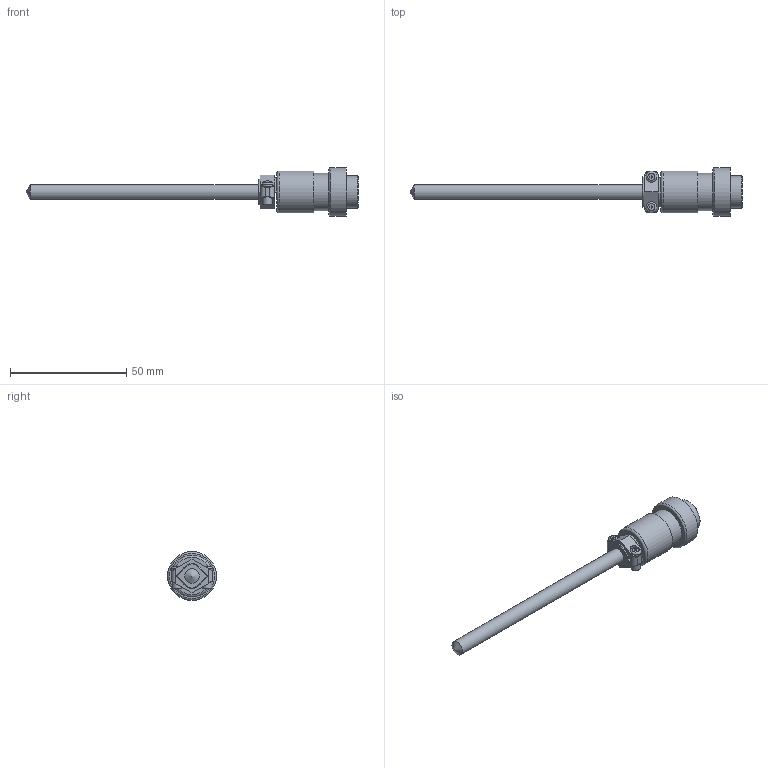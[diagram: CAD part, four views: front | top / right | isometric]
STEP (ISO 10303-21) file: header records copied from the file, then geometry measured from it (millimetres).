
FILE_DESCRIPTION (( 'STEP AP203' ), '1' );
FILE_NAME ('YIR90S-3(0).step', '2025-06-19T05:06:08', ( '' ), ( '' ), 'SwSTEP 2.0', 'SolidWorks 2021', '' );
FILE_SCHEMA (( 'CONFIG_CONTROL_DESIGN' ));
Length unit declared in the file: millimetre
Products named in the file (1): YIR90S-3(0)
Bounding box: 143 x 21 x 21 mm (x, y, z)
Volume: 11472.4 mm3; surface area: 6793.8 mm2
Topology: 4 solids, 4 shells, 84 faces, 202 edges, 132 vertices
Faces by surface type: plane 50, cylinder 21, torus 4, bspline 4, sphere 3, cone 2
Full cylindrical faces by diameter (mm): 2 x2, 2.5 x1, 4 x2, 4.7 x2, 4.8 x2, 6.4 x1, 13.5 x1, 14 x1, 16 x2, 18 x1, 21 x1
Entity records: 2421 total; most frequent: CARTESIAN_POINT 621, DIRECTION 336, ORIENTED_EDGE 320, EDGE_CURVE 160, EDGE_LOOP 122, VERTEX_POINT 118, AXIS2_PLACEMENT_3D 117, FACE_OUTER_BOUND 104
